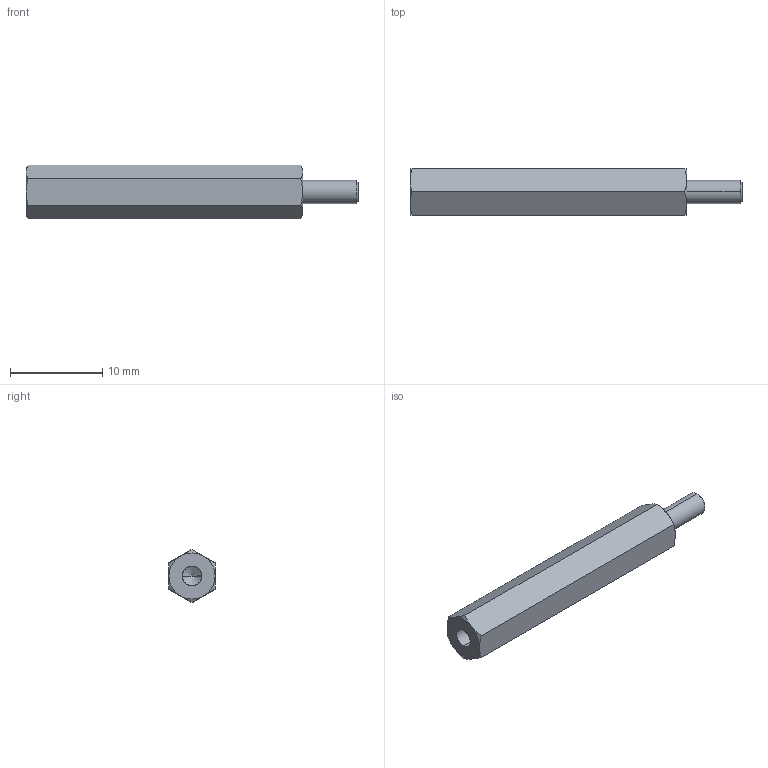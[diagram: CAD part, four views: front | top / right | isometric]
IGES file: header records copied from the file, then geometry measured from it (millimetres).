
Start section: SolidWorks IGES file using analytic representation for surfaces
Global section: file name: C:\Users\render1\Desktop\P0185_IGES\P0185.025-30.igs; native system: SolidWorks 2009; preprocessor: SolidWorks 2009; author: render1; date: 130627.111606; units: millimetre
Bounding box: 36 x 5 x 5.77 mm (x, y, z)
Surface area: 647.2 mm2 (no closed solid volume)
Topology: 0 solids, 0 shells, 29 faces, 324 edges, 322 vertices
Faces by surface type: revolution 20, bspline 9
